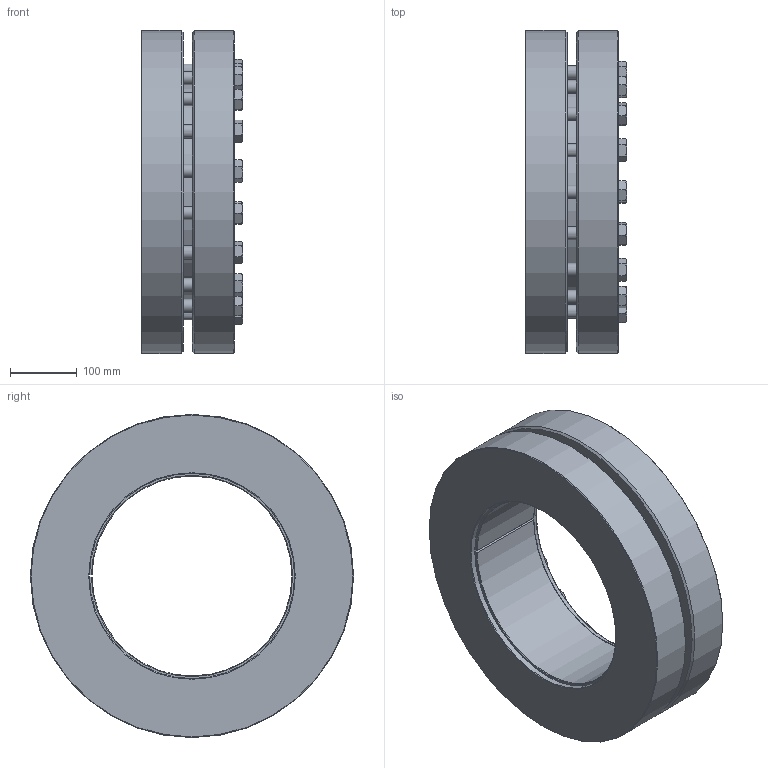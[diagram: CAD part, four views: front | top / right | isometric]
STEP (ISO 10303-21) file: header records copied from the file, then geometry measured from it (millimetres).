
FILE_DESCRIPTION( ( 'Unknown' ), '1' );
FILE_NAME( 'C:/Dokumente und Einstellungen/Sven/Desktop/KBS19 GF/KBS19 - 300 x 485.stp', 'Unknown', ( 'Unknown' ), ( 'Unknown' ), 'XStep 1.0', 'Unknown', ' ' );
FILE_SCHEMA( ( 'automotive_design' ) );
Length unit declared in the file: millimetre
Products named in the file (2): Assem1; ENG-001330
Bounding box: 152.5 x 485 x 485 mm (x, y, z)
Volume: 29491773.6 mm3; surface area: 1578544.1 mm2
Topology: 2 solids, 2 shells, 438 faces, 1140 edges, 784 vertices
Faces by surface type: plane 304, cylinder 82, cone 44, torus 8
Full cylindrical faces by diameter (mm): 20 x36, 28.19 x36, 308 x2, 330.2 x2, 485 x4
Entity records: 11531 total; most frequent: CARTESIAN_POINT 2167, ORIENTED_EDGE 892, DIRECTION 886, PRESENTATION_STYLE_ASSIGNMENT 831, COLOUR_RGB 831, STYLED_ITEM 633, CURVE_STYLE 612, DRAUGHTING_PRE_DEFINED_CURVE_FONT 612
